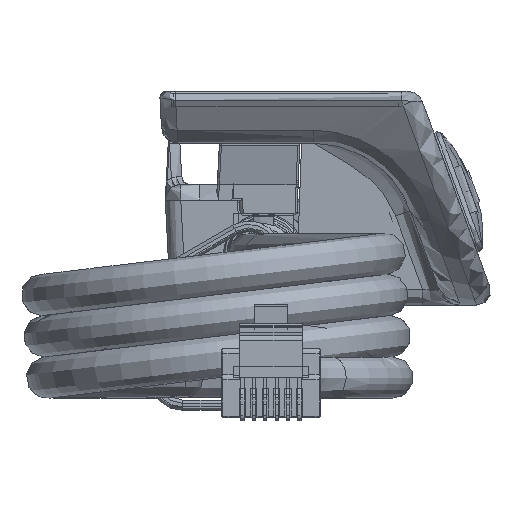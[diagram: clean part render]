
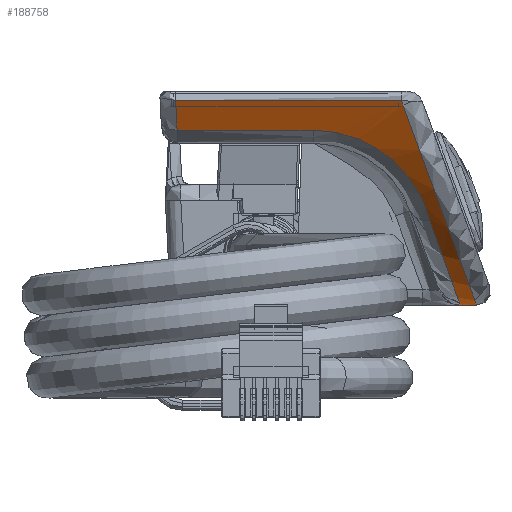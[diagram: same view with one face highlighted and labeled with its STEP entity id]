
A CAD part, left-side view. The second image highlights one B-rep face of the part: STEP entity #188758.
In plain terms, the highlighted free-form (B-spline) face has degree [3, 1] with [9, 2] control points.
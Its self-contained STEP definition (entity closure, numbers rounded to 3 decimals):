
#1834=B_SPLINE_SURFACE_WITH_KNOTS('',3,1,((#394347,#394348),(#394349,#394350),
(#394351,#394352),(#394353,#394354),(#394355,#394356),(#394357,#394358),
(#394359,#394360),(#394361,#394362),(#394363,#394364)),
 .SURF_OF_LINEAR_EXTRUSION.,.F.,.F.,.F.,(4,1,1,1,1,1,4),(2,2),(0.001,
0.011,0.016,0.021,0.031,
0.036,0.041),(0.,1.),.UNSPECIFIED.);
#19137=LINE('',#393678,#36787);
#36787=VECTOR('',#269954,1000.);
#51414=B_SPLINE_CURVE_WITH_KNOTS('',3,(#393885,#393886,#393887,#393888,
#393889,#393890,#393891,#393892,#393893,#393894,#393895,#393896,#393897,
#393898,#393899,#393900,#393901,#393902,#393903),.UNSPECIFIED.,.F.,.F.,
(4,1,1,1,1,1,1,1,1,1,1,1,1,1,1,1,4),(0.,0.125,0.25,0.313,0.375,0.438,
0.469,0.484,0.5,0.516,0.531,0.563,0.625,0.688,0.75,0.875,1.),
 .UNSPECIFIED.);
#51418=B_SPLINE_CURVE_WITH_KNOTS('',3,(#394007,#394008,#394009,#394010),
 .UNSPECIFIED.,.F.,.F.,(4,4),(0.,1.),.UNSPECIFIED.);
#51422=B_SPLINE_CURVE_WITH_KNOTS('',3,(#394146,#394147,#394148,#394149,
#394150,#394151,#394152,#394153,#394154,#394155,#394156,#394157),
 .UNSPECIFIED.,.F.,.F.,(4,1,1,1,1,1,1,1,1,4),(0.,0.125,0.25,0.375,0.438,
0.5,0.563,0.625,0.75,1.),.UNSPECIFIED.);
#51423=B_SPLINE_CURVE_WITH_KNOTS('',3,(#394166,#394167,#394168,#394169),
 .UNSPECIFIED.,.F.,.F.,(4,4),(0.,1.),.UNSPECIFIED.);
#51427=B_SPLINE_CURVE_WITH_KNOTS('',3,(#394217,#394218,#394219,#394220,
#394221,#394222,#394223,#394224,#394225,#394226,#394227,#394228,#394229,
#394230,#394231,#394232),.UNSPECIFIED.,.F.,.F.,(4,1,1,1,1,1,1,1,1,1,1,1,
1,4),(0.,0.125,0.25,0.375,
0.438,0.5,0.563,0.625,0.688,
0.75,0.781,0.813,0.875,1.),
 .UNSPECIFIED.);
#51432=B_SPLINE_CURVE_WITH_KNOTS('',3,(#394365,#394366,#394367,#394368),
 .UNSPECIFIED.,.F.,.F.,(4,4),(0.,1.),
 .UNSPECIFIED.);
#51433=B_SPLINE_CURVE_WITH_KNOTS('',3,(#394370,#394371,#394372,#394373),
 .UNSPECIFIED.,.F.,.F.,(4,4),(0.,1.),.UNSPECIFIED.);
#104026=ORIENTED_EDGE('',*,*,#133542,.T.);
#104027=ORIENTED_EDGE('',*,*,#133560,.T.);
#104028=ORIENTED_EDGE('',*,*,#133564,.T.);
#104029=ORIENTED_EDGE('',*,*,#133556,.T.);
#104030=ORIENTED_EDGE('',*,*,#133494,.T.);
#104031=ORIENTED_EDGE('',*,*,#133528,.T.);
#104032=ORIENTED_EDGE('',*,*,#133573,.T.);
#104033=ORIENTED_EDGE('',*,*,#133574,.F.);
#133494=EDGE_CURVE('',#151548,#151547,#19137,.T.);
#133528=EDGE_CURVE('',#151547,#151565,#51414,.T.);
#133542=EDGE_CURVE('',#151576,#151575,#51418,.T.);
#133556=EDGE_CURVE('',#151583,#151548,#51422,.T.);
#133560=EDGE_CURVE('',#151575,#151586,#51423,.F.);
#133564=EDGE_CURVE('',#151586,#151583,#51427,.T.);
#133573=EDGE_CURVE('',#151565,#151590,#51432,.F.);
#133574=EDGE_CURVE('',#151576,#151590,#51433,.T.);
#151547=VERTEX_POINT('',#393677);
#151548=VERTEX_POINT('',#393679);
#151565=VERTEX_POINT('',#393883);
#151575=VERTEX_POINT('',#394006);
#151576=VERTEX_POINT('',#394011);
#151583=VERTEX_POINT('',#394158);
#151586=VERTEX_POINT('',#394165);
#151590=VERTEX_POINT('',#394369);
#166859=EDGE_LOOP('',(#104026,#104027,#104028,#104029,#104030,#104031,#104032,
#104033));
#177982=FACE_BOUND('',#166859,.T.);
#188758=ADVANCED_FACE('',(#177982),#1834,.T.);
#269954=DIRECTION('',(0.,-1.,0.));
#393677=CARTESIAN_POINT('',(-49.69,-5.618,-20.655));
#393678=CARTESIAN_POINT('',(-49.69,-4.018,-20.655));
#393679=CARTESIAN_POINT('',(-49.69,-4.018,-20.655));
#393883=CARTESIAN_POINT('',(-82.281,1.507,-1.336));
#393885=CARTESIAN_POINT('',(-49.69,-5.618,-20.655));
#393886=CARTESIAN_POINT('',(-51.318,-5.618,-20.655));
#393887=CARTESIAN_POINT('',(-54.609,-5.535,-20.433));
#393888=CARTESIAN_POINT('',(-58.648,-5.224,-19.607));
#393889=CARTESIAN_POINT('',(-61.858,-4.85,-18.601));
#393890=CARTESIAN_POINT('',(-64.24,-4.508,-17.671));
#393891=CARTESIAN_POINT('',(-66.181,-4.171,-16.753));
#393892=CARTESIAN_POINT('',(-67.519,-3.906,-16.033));
#393893=CARTESIAN_POINT('',(-68.262,-3.75,-15.61));
#393894=CARTESIAN_POINT('',(-68.849,-3.621,-15.26));
#393895=CARTESIAN_POINT('',(-69.295,-3.519,-14.984));
#393896=CARTESIAN_POINT('',(-69.935,-3.367,-14.577));
#393897=CARTESIAN_POINT('',(-71.026,-3.096,-13.846));
#393898=CARTESIAN_POINT('',(-72.575,-2.672,-12.706));
#393899=CARTESIAN_POINT('',(-74.396,-2.111,-11.18));
#393900=CARTESIAN_POINT('',(-76.758,-1.292,-8.936));
#393901=CARTESIAN_POINT('',(-79.497,-0.133,-5.79));
#393902=CARTESIAN_POINT('',(-81.406,0.937,-2.891));
#393903=CARTESIAN_POINT('',(-82.282,1.507,-1.336));
#394006=CARTESIAN_POINT('',(-80.803,23.302,-3.751));
#394007=CARTESIAN_POINT('',(-82.535,23.452,-0.878));
#394008=CARTESIAN_POINT('',(-81.997,23.402,-1.865));
#394009=CARTESIAN_POINT('',(-81.42,23.352,-2.823));
#394010=CARTESIAN_POINT('',(-80.804,23.302,-3.752));
#394011=CARTESIAN_POINT('',(-82.536,23.453,-0.878));
#394146=CARTESIAN_POINT('',(-72.866,-1.067,-12.443));
#394147=CARTESIAN_POINT('',(-72.075,-1.296,-13.078));
#394148=CARTESIAN_POINT('',(-70.447,-1.73,-14.285));
#394149=CARTESIAN_POINT('',(-67.715,-2.337,-15.971));
#394150=CARTESIAN_POINT('',(-65.385,-2.759,-17.15));
#394151=CARTESIAN_POINT('',(-63.491,-3.052,-17.963));
#394152=CARTESIAN_POINT('',(-62.115,-3.241,-18.49));
#394153=CARTESIAN_POINT('',(-60.564,-3.429,-19.011));
#394154=CARTESIAN_POINT('',(-58.538,-3.638,-19.593));
#394155=CARTESIAN_POINT('',(-54.943,-3.922,-20.382));
#394156=CARTESIAN_POINT('',(-51.784,-4.018,-20.655));
#394157=CARTESIAN_POINT('',(-49.69,-4.018,-20.655));
#394158=CARTESIAN_POINT('',(-72.865,-1.067,-12.443));
#394165=CARTESIAN_POINT('',(-80.803,10.182,-3.751));
#394166=CARTESIAN_POINT('',(-80.802,10.182,-3.75));
#394167=CARTESIAN_POINT('',(-80.802,14.555,-3.75));
#394168=CARTESIAN_POINT('',(-80.802,18.929,-3.75));
#394169=CARTESIAN_POINT('',(-80.802,23.302,-3.75));
#394217=CARTESIAN_POINT('',(-80.804,10.182,-3.752));
#394218=CARTESIAN_POINT('',(-80.805,9.456,-3.751));
#394219=CARTESIAN_POINT('',(-80.72,8.038,-3.88));
#394220=CARTESIAN_POINT('',(-80.309,5.947,-4.486));
#394221=CARTESIAN_POINT('',(-79.759,4.398,-5.256));
#394222=CARTESIAN_POINT('',(-79.188,3.274,-6.011));
#394223=CARTESIAN_POINT('',(-78.666,2.461,-6.67));
#394224=CARTESIAN_POINT('',(-78.139,1.796,-7.307));
#394225=CARTESIAN_POINT('',(-77.539,1.174,-8.001));
#394226=CARTESIAN_POINT('',(-76.874,0.621,-8.73));
#394227=CARTESIAN_POINT('',(-76.271,0.218,-9.358));
#394228=CARTESIAN_POINT('',(-75.732,-0.083,-9.896));
#394229=CARTESIAN_POINT('',(-75.244,-0.325,-10.369));
#394230=CARTESIAN_POINT('',(-74.333,-0.706,-11.218));
#394231=CARTESIAN_POINT('',(-73.475,-0.945,-11.954));
#394232=CARTESIAN_POINT('',(-72.866,-1.067,-12.443));
#394347=CARTESIAN_POINT('',(-82.651,23.627,-0.664));
#394348=CARTESIAN_POINT('',(-82.651,-5.793,-0.664));
#394349=CARTESIAN_POINT('',(-81.044,23.627,-3.653));
#394350=CARTESIAN_POINT('',(-81.044,-5.793,-3.653));
#394351=CARTESIAN_POINT('',(-78.108,23.627,-7.741));
#394352=CARTESIAN_POINT('',(-78.108,-5.793,-7.741));
#394353=CARTESIAN_POINT('',(-73.108,23.627,-12.392));
#394354=CARTESIAN_POINT('',(-73.108,-5.793,-12.392));
#394355=CARTESIAN_POINT('',(-67.643,23.627,-16.261));
#394356=CARTESIAN_POINT('',(-67.643,-5.793,-16.261));
#394357=CARTESIAN_POINT('',(-61.356,23.627,-19.026));
#394358=CARTESIAN_POINT('',(-61.356,-5.793,-19.026));
#394359=CARTESIAN_POINT('',(-54.8,23.627,-20.412));
#394360=CARTESIAN_POINT('',(-54.8,-5.793,-20.412));
#394361=CARTESIAN_POINT('',(-51.393,23.627,-20.655));
#394362=CARTESIAN_POINT('',(-51.393,-5.793,-20.655));
#394363=CARTESIAN_POINT('',(-49.69,23.627,-20.655));
#394364=CARTESIAN_POINT('',(-49.69,-5.793,-20.655));
#394365=CARTESIAN_POINT('',(-82.536,1.675,-0.878));
#394366=CARTESIAN_POINT('',(-82.452,1.62,-1.029));
#394367=CARTESIAN_POINT('',(-82.367,1.564,-1.182));
#394368=CARTESIAN_POINT('',(-82.282,1.507,-1.336));
#394369=CARTESIAN_POINT('',(-82.535,1.675,-0.878));
#394370=CARTESIAN_POINT('',(-82.535,23.453,-0.878));
#394371=CARTESIAN_POINT('',(-82.535,16.194,-0.878));
#394372=CARTESIAN_POINT('',(-82.535,8.934,-0.878));
#394373=CARTESIAN_POINT('',(-82.535,1.675,-0.878));
